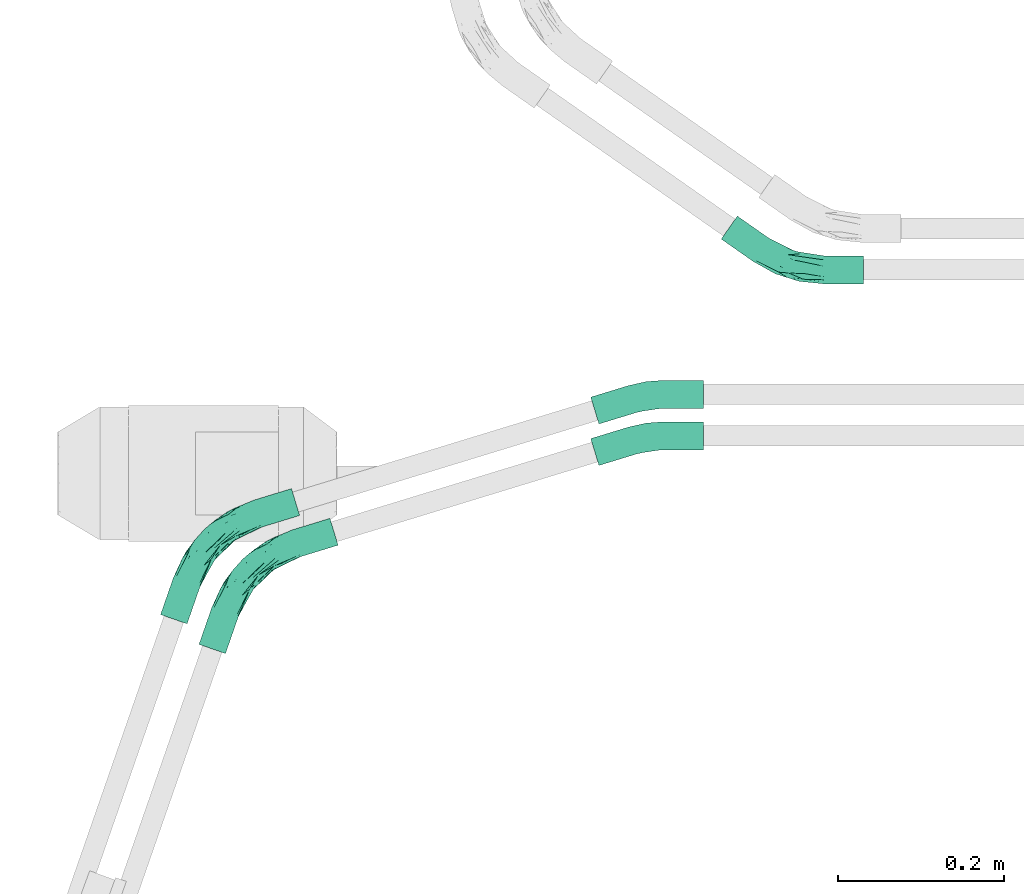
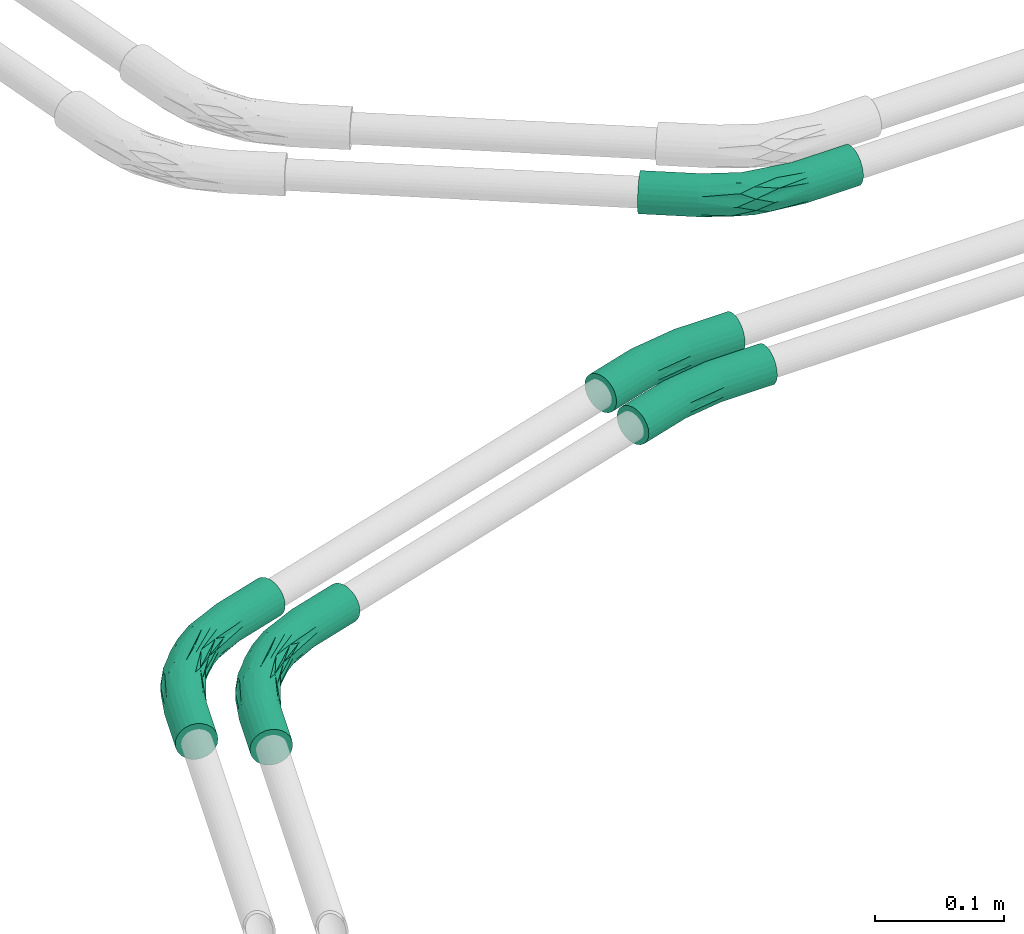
# One storey, part 3 of 22: 5 flow fittings.
"""IFC2X3 building model written with IfcOpenShell, lengths in millimetres."""

from ifc_helpers import new_model, entity, si_unit, converted_unit, derived_unit, direction, frame, origin_with_axes, place, context, subcontext, project, spatial, open_shell, surface_model, source, transform, mapped, type_object, element, save


model = new_model("IFC2X3")

# Units and contexts
model_context = context("Model", 3, precision=0.01, world=frame((0.0, 4.29681676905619e-09, 0.0)), true_north=direction((4.01073788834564e-13, 1.0)))
plan_context = context("Plan", 3, precision=0.01, world=frame((0.0, 4.29681676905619e-09, 0.0)), true_north=direction((4.01073788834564e-13, 1.0)))
body_context = subcontext(model_context, "Body", "Model", "MODEL_VIEW")
ifc_project = project(units=[converted_unit("PLANEANGLEUNIT", "DEGREE", entity("IfcPositiveLengthMeasure", 0.0174532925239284), si_unit("PLANEANGLEUNIT", "RADIAN"), dimensions=[0, 0, 0, 0, 0, 0, 0]), si_unit("AREAUNIT", "SQUARE_METRE"), si_unit("LENGTHUNIT", "METRE", prefix="MILLI"), si_unit("MASSUNIT", "GRAM", prefix="KILO"), si_unit("POWERUNIT", "WATT"), si_unit("PRESSUREUNIT", "PASCAL", prefix="KILO"), si_unit("FORCEUNIT", "NEWTON", prefix="KILO"), si_unit("ELECTRICVOLTAGEUNIT", "VOLT"), si_unit("ELECTRICCURRENTUNIT", "AMPERE"), si_unit("THERMODYNAMICTEMPERATUREUNIT", "DEGREE_CELSIUS"), si_unit("TIMEUNIT", "SECOND"), si_unit("VOLUMEUNIT", "CUBIC_METRE"), derived_unit("LINEARVELOCITYUNIT", [(si_unit("LENGTHUNIT", "METRE"), 1), (si_unit("TIMEUNIT", "SECOND"), -1)]), derived_unit("VOLUMETRICFLOWRATEUNIT", [(si_unit("VOLUMEUNIT", "CUBIC_METRE"), 1), (si_unit("TIMEUNIT", "SECOND"), -1)]), derived_unit("THERMALTRANSMITTANCEUNIT", [(si_unit("POWERUNIT", "WATT"), 1), (si_unit("THERMODYNAMICTEMPERATUREUNIT", "KELVIN"), -1), (si_unit("AREAUNIT", "SQUARE_METRE"), -1)]), derived_unit("SOUNDPRESSUREUNIT", [(si_unit("PRESSUREUNIT", "PASCAL"), 1)])], contexts=[model_context, plan_context])

# Site, building, storey
site_placement = place(None, frame((0.0, -4.29681676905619e-09, 0.0), z_axis=(0.0, 0.0, 1.0), x_axis=(1.0, 0.0, 0.0)))
site = spatial("IfcSite", under=ifc_project, at=site_placement, Name="ENGM", CompositionType="ELEMENT")
building_placement = place(site_placement, frame((0.0, 4.29681676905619e-09, 0.0), z_axis=(0.0, 0.0, 1.0), x_axis=(1.0, 0.0, 0.0)))
building = spatial("IfcBuilding", under=site, at=building_placement, Name="TI", CompositionType="ELEMENT")
storey_placement = place(building_placement, frame((0.0, 0.0, 210900.0), z_axis=(0.0, 0.0, 1.0), x_axis=(1.0, 0.0, 0.0)))
storey = spatial("IfcBuildingStorey", under=building, at=storey_placement, Name="Nivå F", CompositionType="ELEMENT", Elevation=210900.0)

# Flow fittings
cable_carrier_fitting_type = type_object("IfcCableCarrierFittingType", Name="Trekkerør, glatt bend", PredefinedType="BEND")
shared_shape_1 = source(origin_with_axes(), body_context, "Body", "SurfaceModel", [
    surface_model("IfcShellBasedSurfaceModel", [(-67.01386, 8.46055, -14.6541), (-67.01386, 4.3795, -16.34452), (-67.01386, 0.0, -16.92109), (-67.01386, -4.3795, -16.34452), (-67.01386, -8.46055, -14.6541), (-67.01386, -14.6541, -8.46055), (-67.01386, 16.92109, 0.0), (-67.01386, -11.96502, -11.96502), (-67.01386, -11.96502, 11.96502), (-67.01386, 14.6541, -8.46055), (-67.01386, 11.96502, -11.96502), (-67.01386, 16.34452, -4.3795), (-67.01386, -16.34452, -4.3795), (-67.01386, -16.92109, 0.0), (-67.01386, -16.34452, 4.3795), (-67.01386, -14.6541, 8.46055), (-67.01386, 0.0, 16.92109), (-67.01386, -8.46055, 14.6541), (-67.01386, -4.3795, 16.34452), (-67.01386, 14.6541, 8.46055), (-67.01386, 8.46055, 14.6541), (-67.01386, 11.96502, 11.96502), (-67.01386, 16.34452, 4.3795), (-67.01386, 4.3795, 16.34452), (-19.69589, 16.34452, 4.3795), (-19.69589, 16.92109, 0.0), (-19.69589, 14.6541, 8.46055), (-19.69589, 8.46055, 14.6541), (-19.69589, 11.96502, 11.96502), (-19.69589, 4.3795, 16.34452), (-19.69589, 0.0, 16.92109), (-19.69589, -8.46055, 14.6541), (-19.69589, -4.3795, 16.34452), (-19.69589, -11.96502, 11.96502), (-19.69589, -16.34452, 4.3795), (-19.69589, -14.6541, 8.46055), (-19.69589, -16.92109, 0.0), (-19.69589, -16.34452, -4.3795), (-19.69589, -14.6541, -8.46055), (-19.69589, -8.46055, -14.6541), (-19.69589, -11.96502, -11.96502), (-19.69589, -4.3795, -16.34452), (-19.69589, 0.0, -16.92109), (-19.69589, 8.46055, -14.6541), (-19.69589, 4.3795, -16.34452), (-19.69589, 11.96502, -11.96502), (-19.69589, 16.34452, -4.3795), (-19.69589, 14.6541, -8.46055), (22.33351, 5.68368, 11.96502), (21.3089, 2.33234, 14.6541), (20.11572, -1.57038, 16.34452), (18.83527, -5.75852, 16.92109), (17.55483, -9.94666, 16.34452), (23.11972, 8.25526, 8.46055), (14.55083, -19.7723, 8.46055), (15.33704, -17.20073, 11.96502), (14.0566, -21.38887, 4.3795), (-2.71744, -18.18281, 0.0), (16.36165, -13.84938, 14.6541), (2.28475, 15.28765, 0.0), (23.61395, 9.87182, 4.3795), (23.78252, 10.4232, 0.0), (13.88803, -21.94024, 0.0), (20.11572, -1.57038, -16.34452), (18.83527, -5.75852, -16.92109), (14.0566, -21.38887, -4.3795), (16.36165, -13.84938, -14.6541), (17.55483, -9.94666, -16.34452), (15.33704, -17.20073, -11.96502), (23.61395, 9.87182, -4.3795), (22.33351, 5.68368, -11.96502), (23.11972, 8.25526, -8.46055), (21.3089, 2.33234, -14.6541), (14.55083, -19.7723, -8.46055), (64.08567, -19.59296, -16.92109), (67.58391, -8.15075, -11.96502), (62.80523, -23.7811, -16.34452), (61.61205, -27.68382, -14.6541), (59.80123, -33.60674, -8.46055), (60.58744, -31.03516, -11.96502), (69.03292, -3.41123, 0.0), (68.86435, -3.96261, 4.3795), (66.5593, -11.50209, -14.6541), (65.36611, -15.40482, -16.34452), (68.37011, -5.57917, -8.46055), (68.86435, -3.96261, -4.3795), (59.30699, -35.2233, -4.3795), (59.13842, -35.77468, 0.0), (67.58391, -8.15075, 11.96502), (59.30699, -35.2233, 4.3795), (59.80123, -33.60674, 8.46055), (60.58744, -31.03516, 11.96502), (61.61205, -27.68382, 14.6541), (64.08567, -19.59296, 16.92109), (62.80523, -23.7811, 16.34452), (68.37011, -5.57917, 8.46055), (65.36611, -15.40482, 16.34452), (66.5593, -11.50209, 14.6541)], [open_shell([[[0, 1, 2]], [[2, 3, 4]], [[2, 4, 5]], [[2, 5, 6]], [[5, 4, 7]], [[8, 6, 5]], [[0, 9, 10]], [[0, 11, 9]], [[0, 2, 11]], [[6, 11, 2]], [[5, 12, 8]], [[13, 14, 15]], [[13, 15, 8]], [[16, 6, 17]], [[6, 8, 17]], [[16, 17, 18]], [[19, 20, 21]], [[19, 22, 6]], [[20, 16, 23]], [[20, 19, 6]], [[20, 6, 16]], [[12, 13, 8]], [[24, 25, 22]], [[24, 19, 26]], [[27, 28, 20]], [[21, 28, 26]], [[29, 27, 23]], [[6, 22, 25]], [[22, 19, 24]], [[19, 21, 26]], [[21, 20, 28]], [[27, 20, 23]], [[23, 16, 29]], [[16, 30, 29]], [[31, 32, 17]], [[31, 8, 33]], [[34, 35, 14]], [[15, 35, 33]], [[36, 34, 13]], [[30, 18, 32]], [[18, 17, 32]], [[16, 18, 30]], [[17, 8, 31]], [[8, 15, 33]], [[35, 15, 14]], [[14, 13, 34]], [[37, 36, 12]], [[37, 5, 38]], [[39, 40, 4]], [[7, 40, 38]], [[41, 39, 3]], [[13, 12, 36]], [[12, 5, 37]], [[5, 7, 38]], [[7, 4, 40]], [[39, 4, 3]], [[3, 2, 41]], [[2, 42, 41]], [[43, 44, 0]], [[43, 10, 45]], [[46, 47, 11]], [[9, 47, 45]], [[25, 46, 6]], [[42, 1, 44]], [[1, 0, 44]], [[2, 1, 42]], [[0, 10, 43]], [[10, 9, 45]], [[47, 9, 11]], [[11, 6, 46]], [[48, 26, 28]], [[28, 27, 49]], [[27, 29, 50]], [[29, 30, 51]], [[52, 30, 32]], [[26, 53, 24]], [[54, 33, 35]], [[33, 55, 31]], [[56, 34, 57]], [[34, 36, 57]], [[35, 34, 56]], [[32, 31, 58]], [[59, 25, 24]], [[27, 50, 49]], [[49, 48, 28]], [[29, 51, 50]], [[60, 24, 53]], [[48, 53, 26]], [[60, 61, 59]], [[35, 56, 54]], [[56, 57, 62]], [[52, 32, 58]], [[55, 58, 31]], [[55, 33, 54]], [[51, 30, 52]], [[60, 59, 24]], [[63, 42, 44]], [[64, 41, 42]], [[37, 38, 65]], [[39, 66, 40]], [[67, 39, 41]], [[40, 68, 38]], [[46, 25, 59]], [[46, 59, 69]], [[43, 45, 70]], [[69, 47, 46]], [[47, 71, 45]], [[44, 43, 72]], [[57, 36, 37]], [[65, 62, 57]], [[38, 73, 65]], [[68, 40, 66]], [[67, 66, 39]], [[38, 68, 73]], [[41, 64, 67]], [[63, 44, 72]], [[72, 43, 70]], [[69, 71, 47]], [[59, 61, 69]], [[70, 45, 71]], [[42, 63, 64]], [[65, 57, 37]], [[74, 75, 76]], [[77, 76, 78]], [[78, 76, 75]], [[79, 77, 78]], [[78, 80, 81]], [[82, 75, 83]], [[75, 74, 83]], [[84, 85, 75]], [[80, 75, 85]], [[75, 80, 78]], [[81, 86, 78]], [[87, 88, 89]], [[90, 89, 91]], [[88, 92, 89]], [[91, 89, 92]], [[92, 93, 94]], [[95, 88, 81]], [[88, 87, 81]], [[96, 93, 97]], [[88, 97, 93]], [[88, 93, 92]], [[86, 81, 87]], [[81, 80, 60]], [[81, 53, 95]], [[97, 88, 49]], [[48, 88, 95]], [[96, 97, 50]], [[61, 60, 80]], [[60, 53, 81]], [[53, 48, 95]], [[48, 49, 88]], [[97, 49, 50]], [[50, 51, 96]], [[51, 93, 96]], [[92, 94, 58]], [[92, 55, 91]], [[89, 90, 56]], [[54, 90, 91]], [[87, 89, 62]], [[93, 52, 94]], [[52, 58, 94]], [[51, 52, 93]], [[58, 55, 92]], [[55, 54, 91]], [[90, 54, 56]], [[56, 62, 89]], [[86, 87, 62]], [[86, 65, 78]], [[67, 76, 77]], [[68, 77, 79]], [[79, 78, 73]], [[65, 73, 78]], [[86, 62, 65]], [[66, 77, 68]], [[67, 77, 66]], [[67, 64, 76]], [[79, 73, 68]], [[64, 74, 76]], [[82, 83, 72]], [[82, 70, 75]], [[85, 84, 69]], [[71, 84, 75]], [[80, 85, 61]], [[74, 63, 83]], [[63, 72, 83]], [[64, 63, 74]], [[72, 70, 82]], [[70, 71, 75]], [[84, 71, 69]], [[69, 61, 85]]])]),
])
for number, where, z_axis, x_axis, name in (
    (1, (583306.02904, 571094.62419, -56.7999999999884), (0.0, 0.0, 1.0), (0.956304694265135, 0.292371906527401, 0.0), "Trekkerør, glatt bend"),
    (2, (583306.02904, 571044.62419, -56.7999999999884), (0.0, 0.0, 1.0), (0.956304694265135, 0.292371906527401, 0.0), "Trekkerør, glatt bend"),
):
    element("IfcFlowFitting", number, at=place(storey_placement, frame(where, z_axis=z_axis, x_axis=x_axis)), inside=storey, type_object=cable_carrier_fitting_type, Name=name, context=body_context, shape_type="MappedRepresentation", body=[
        mapped(shared_shape_1, transform((0.0, 0.0, 0.0), scale=1.0)),
    ])
shared_shape_2 = source(origin_with_axes(), body_context, "Body", "SurfaceModel", [
    surface_model("IfcShellBasedSurfaceModel", [(-114.18104, 8.46055, -14.6541), (-114.18104, 4.3795, -16.34452), (-114.18104, 0.0, -16.92109), (-114.18104, 14.6541, -8.46055), (-114.18104, -8.46055, -14.6541), (-114.18104, 11.96502, -11.96502), (-114.18104, -16.92109, 0.0), (-114.18104, -16.34452, 4.3795), (-114.18104, -11.96502, -11.96502), (-114.18104, -14.6541, -8.46055), (-114.18104, -4.3795, -16.34452), (-114.18104, -16.34452, -4.3795), (-114.18104, 16.92109, 0.0), (-114.18104, 16.34452, -4.3795), (-114.18104, 16.34452, 4.3795), (-114.18104, 14.6541, 8.46055), (-114.18104, 8.46055, 14.6541), (-114.18104, 11.96502, 11.96502), (-114.18104, 0.0, 16.92109), (-114.18104, 4.3795, 16.34452), (-114.18104, -11.96502, 11.96502), (-114.18104, -8.46055, 14.6541), (-114.18104, -14.6541, 8.46055), (-114.18104, -4.3795, 16.34452), (-66.86307, -16.92109, 0.0), (-66.86307, -16.34452, 4.3795), (-66.86307, -14.6541, 8.46055), (-66.86307, -11.96502, 11.96502), (-66.86307, -8.46055, 14.6541), (-66.86307, -4.3795, 16.34452), (-66.86307, 0.0, 16.92109), (-66.86307, 4.3795, 16.34452), (-66.86307, 8.46055, 14.6541), (-66.86307, 11.96502, 11.96502), (-66.86307, 14.6541, 8.46055), (-66.86307, 16.34452, 4.3795), (-66.86307, 16.92109, 0.0), (-66.86307, 16.34452, -4.3795), (-66.86307, 14.6541, -8.46055), (-66.86307, 11.96502, -11.96502), (-66.86307, 8.46055, -14.6541), (-66.86307, 4.3795, -16.34452), (-66.86307, 0.0, -16.92109), (-66.86307, -4.3795, -16.34452), (-66.86307, -8.46055, -14.6541), (-66.86307, -11.96502, -11.96502), (-66.86307, -14.6541, -8.46055), (-66.86307, -16.34452, -4.3795), (-7.95797, -4.42749, 3.1862), (-35.42196, -13.15403, 3.63992), (-32.27242, -12.84216, 0.0), (43.0219, 51.37087, 16.34452), (39.48772, 53.9573, 16.92109), (21.78288, 31.11607, 16.75716), (-28.2681, -1.16114, 15.55965), (-36.24238, -7.08238, 13.33358), (-32.48914, -9.40106, 10.16826), (-43.40125, -13.61824, 6.79025), (-33.3333, 18.16273, 10.43706), (-37.97456, 0.798, 16.75716), (-4.61214, 9.09061, 15.89686), (32.66021, 58.95389, 14.6541), (29.83216, 61.02355, 11.96502), (13.72034, 40.73345, 13.50422), (-9.40332, 18.53411, 16.22846), (-29.16631, 7.61689, 16.79998), (11.07823, 28.03505, 16.79998), (-36.81854, 9.98559, 15.69055), (0.42066, -0.82913, 0.0), (29.42271, 18.45899, 0.0), (15.53221, 8.29758, 2.92209), (-40.97407, 12.98412, 13.50422), (51.31331, 45.30294, 8.46055), (49.14327, 46.89105, 11.96502), (28.60105, 22.24115, 10.17752), (-16.70811, 26.90629, 6.71647), (-43.67359, 17.90107, 6.63933), (13.68595, 35.60915, 15.69055), (35.95354, 56.54373, 16.34452), (-29.39279, 22.78636, 3.63614), (27.26363, 25.19258, 13.33415), (-4.16877, 35.06109, 3.66136), (26.29798, 63.60998, 4.3795), (9.20666, 43.94014, 6.59732), (27.66212, 62.61165, 8.46055), (17.63148, 22.12611, 15.55965), (46.31523, 48.9607, 14.6541), (36.27692, 25.07799, 3.1792), (22.76936, 14.64862, 6.28703), (52.67745, 44.30462, 4.3795), (2.86445, 3.39946, 9.02542), (53.14274, 43.96411, 0.0), (-2.4602, 4.84909, 13.22646), (3.5245, 36.48876, 10.44458), (-11.7917, 23.24165, 13.59813), (25.8327, 63.95049, 0.0), (0.44002, 38.70356, 0.0), (-31.49295, 22.5023, 0.0), (-6.09794, 12.01915, 16.73333), (-17.17436, -7.10447, 6.24887), (-4.44654, 24.36305, 15.14505), (-31.04354, 11.52814, -15.70174), (9.20666, 43.94014, -6.59732), (3.5245, 36.48876, -10.44458), (-16.70811, 26.90629, -6.71647), (15.35976, 8.89418, -5.28368), (-1.07229, 2.11351, -10.03898), (29.00466, 22.59625, -10.17958), (-40.97407, 12.98412, -13.50422), (-29.39279, 22.78636, -3.63614), (27.66212, 62.61165, -8.46055), (29.83216, 61.02355, -11.96502), (-4.16877, 35.06109, -3.66136), (-27.48572, -4.89323, -13.30679), (-33.3333, 18.16273, -10.43706), (-43.67359, 17.90107, -6.63933), (-11.7917, 23.24165, -13.59813), (-39.02557, 5.09311, -16.79389), (-26.5563, -10.09311, -6.29304), (-35.36422, -10.06144, -10.17958), (-41.67473, -14.46692, -3.17756), (51.31331, 45.30294, -8.46055), (36.78908, 26.89793, -6.37043), (-36.95798, -3.34037, -15.57665), (9.03056, 31.85982, -15.70174), (-8.09915, 15.96357, -16.81304), (-29.17558, 3.00766, -16.75093), (32.66021, 58.95389, -14.6541), (35.95354, 56.54373, -16.34452), (18.93752, 34.5008, -16.79389), (26.29798, 63.60998, -4.3795), (39.48772, 53.9573, -16.92109), (43.0219, 51.37087, -16.34452), (14.80326, 25.32043, -16.75093), (20.18115, 19.29066, -13.30679), (46.31523, 48.9607, -14.6541), (49.14327, 46.89105, -11.96502), (13.72034, 40.73345, -13.50422), (24.52211, 27.85168, -15.57665), (-6.60087, 13.01042, -16.86289), (-4.17447, 8.22795, -15.50993), (-2.8082, 5.53501, -13.80517), (52.67745, 44.30462, -4.3795), (-15.87372, -7.6289, -2.95781), (36.50825, 25.29169, -3.14006), (67.43257, 92.14205, -16.92109), (63.89839, 94.72848, -16.34452), (60.60506, 97.13865, -14.6541), (57.77701, 99.20831, -11.96502), (55.60698, 100.79641, -8.46055), (81.08759, 82.14886, 0.0), (53.77755, 102.13524, 0.0), (74.26008, 87.14545, -14.6541), (79.25816, 83.48769, -8.46055), (77.08813, 85.0758, -11.96502), (70.96675, 89.55563, -16.34452), (80.6223, 82.48937, -4.3795), (54.24283, 101.79473, -4.3795), (54.24283, 101.79473, 4.3795), (55.60698, 100.79641, 8.46055), (57.77701, 99.20831, 11.96502), (60.60506, 97.13865, 14.6541), (79.25816, 83.48769, 8.46055), (63.89839, 94.72848, 16.34452), (74.26008, 87.14545, 14.6541), (77.08813, 85.0758, 11.96502), (80.6223, 82.48937, 4.3795), (70.96675, 89.55563, 16.34452), (67.43257, 92.14205, 16.92109)], [open_shell([[[0, 1, 2]], [[3, 0, 2]], [[4, 3, 2]], [[5, 0, 3]], [[3, 6, 7]], [[8, 9, 4]], [[2, 10, 4]], [[9, 11, 4]], [[11, 3, 4]], [[3, 11, 6]], [[12, 13, 3]], [[12, 7, 14]], [[14, 7, 15]], [[16, 17, 18]], [[15, 18, 17]], [[18, 19, 16]], [[20, 21, 22]], [[15, 7, 22]], [[23, 18, 21]], [[15, 22, 21]], [[15, 21, 18]], [[3, 7, 12]], [[7, 24, 25]], [[26, 22, 25]], [[21, 27, 28]], [[26, 27, 20]], [[23, 28, 29]], [[24, 7, 6]], [[25, 22, 7]], [[26, 20, 22]], [[27, 21, 20]], [[23, 21, 28]], [[29, 18, 23]], [[29, 30, 18]], [[16, 31, 32]], [[33, 17, 32]], [[14, 34, 35]], [[33, 34, 15]], [[12, 35, 36]], [[31, 19, 30]], [[31, 16, 19]], [[30, 19, 18]], [[32, 17, 16]], [[33, 15, 17]], [[14, 15, 34]], [[35, 12, 14]], [[13, 36, 37]], [[38, 3, 37]], [[0, 39, 40]], [[38, 39, 5]], [[1, 40, 41]], [[36, 13, 12]], [[37, 3, 13]], [[38, 5, 3]], [[39, 0, 5]], [[1, 0, 40]], [[41, 2, 1]], [[41, 42, 2]], [[4, 43, 44]], [[45, 8, 44]], [[11, 46, 47]], [[45, 46, 9]], [[6, 47, 24]], [[43, 10, 42]], [[43, 4, 10]], [[42, 10, 2]], [[44, 8, 4]], [[45, 9, 8]], [[11, 9, 46]], [[47, 6, 11]], [[48, 49, 50]], [[49, 24, 50]], [[51, 52, 53]], [[29, 28, 54]], [[55, 27, 56]], [[25, 49, 57]], [[34, 33, 58]], [[59, 54, 60]], [[59, 30, 29]], [[61, 62, 63]], [[64, 65, 66]], [[67, 31, 65]], [[68, 69, 70]], [[33, 32, 71]], [[72, 73, 74]], [[58, 75, 76]], [[65, 31, 30]], [[26, 56, 27]], [[77, 78, 61]], [[75, 79, 76]], [[80, 74, 73]], [[36, 35, 79]], [[81, 79, 75]], [[32, 31, 67]], [[59, 65, 30]], [[48, 68, 70]], [[50, 68, 48]], [[82, 83, 84]], [[85, 51, 53]], [[63, 77, 61]], [[71, 58, 33]], [[85, 86, 51]], [[87, 88, 70]], [[66, 52, 78]], [[80, 73, 86]], [[72, 88, 89]], [[90, 88, 74]], [[74, 88, 72]], [[27, 55, 28]], [[91, 89, 87]], [[90, 92, 56]], [[93, 58, 94]], [[55, 54, 28]], [[81, 75, 83]], [[26, 57, 56]], [[95, 96, 82]], [[66, 77, 64]], [[81, 97, 79]], [[83, 93, 84]], [[62, 84, 93]], [[60, 98, 59]], [[63, 93, 94]], [[80, 85, 92]], [[78, 77, 66]], [[66, 98, 53]], [[60, 92, 85]], [[58, 93, 75]], [[99, 88, 90]], [[67, 64, 100]], [[98, 66, 65]], [[71, 67, 94]], [[56, 92, 55]], [[54, 55, 92]], [[85, 80, 86]], [[92, 74, 80]], [[54, 59, 29]], [[65, 59, 98]], [[66, 53, 52]], [[53, 98, 60]], [[81, 82, 96]], [[93, 83, 75]], [[67, 71, 32]], [[58, 71, 94]], [[93, 63, 62]], [[63, 94, 100]], [[92, 90, 74]], [[56, 99, 90]], [[82, 81, 83]], [[97, 81, 96]], [[36, 79, 97]], [[76, 35, 34]], [[35, 76, 79]], [[58, 76, 34]], [[100, 64, 77]], [[67, 65, 64]], [[87, 70, 69]], [[48, 88, 99]], [[91, 87, 69]], [[88, 87, 89]], [[88, 48, 70]], [[48, 99, 49]], [[57, 49, 99]], [[24, 49, 25]], [[56, 57, 99]], [[25, 57, 26]], [[92, 60, 54]], [[53, 60, 85]], [[63, 100, 77]], [[67, 100, 94]], [[101, 41, 40]], [[102, 103, 104]], [[105, 106, 107]], [[39, 108, 40]], [[97, 109, 36]], [[103, 110, 111]], [[97, 112, 109]], [[45, 44, 113]], [[114, 39, 38]], [[115, 114, 38]], [[114, 103, 116]], [[42, 41, 117]], [[118, 46, 119]], [[103, 114, 104]], [[24, 47, 120]], [[107, 121, 122]], [[118, 47, 46]], [[108, 114, 116]], [[123, 44, 43]], [[101, 124, 125]], [[113, 119, 45]], [[44, 123, 113]], [[43, 42, 126]], [[124, 101, 116]], [[117, 101, 125]], [[127, 128, 124]], [[97, 96, 112]], [[129, 124, 128]], [[96, 95, 130]], [[131, 132, 133]], [[110, 102, 130]], [[134, 135, 136]], [[108, 101, 40]], [[103, 111, 137]], [[124, 116, 137]], [[112, 130, 102]], [[128, 131, 129]], [[138, 133, 132]], [[139, 140, 126]], [[127, 137, 111]], [[139, 125, 129]], [[133, 139, 129]], [[140, 138, 134]], [[134, 141, 140]], [[142, 122, 121]], [[143, 68, 50]], [[134, 136, 107]], [[132, 135, 138]], [[69, 68, 105]], [[107, 136, 121]], [[69, 144, 91]], [[106, 105, 118]], [[105, 68, 143]], [[120, 118, 143]], [[141, 106, 113]], [[117, 126, 42]], [[45, 119, 46]], [[115, 37, 109]], [[123, 126, 140]], [[105, 122, 144]], [[106, 134, 107]], [[113, 106, 119]], [[118, 119, 106]], [[126, 123, 43]], [[113, 123, 140]], [[134, 138, 135]], [[133, 138, 140]], [[101, 117, 41]], [[117, 125, 139]], [[133, 129, 131]], [[124, 129, 125]], [[103, 102, 110]], [[112, 102, 104]], [[114, 108, 39]], [[101, 108, 116]], [[124, 137, 127]], [[103, 137, 116]], [[112, 104, 109]], [[130, 112, 96]], [[115, 109, 104]], [[36, 109, 37]], [[114, 115, 104]], [[37, 115, 38]], [[144, 122, 142]], [[107, 122, 105]], [[91, 144, 142]], [[105, 144, 69]], [[120, 143, 50]], [[105, 143, 118]], [[24, 120, 50]], [[118, 120, 47]], [[106, 141, 134]], [[113, 140, 141]], [[140, 139, 133]], [[117, 139, 126]], [[145, 146, 147]], [[145, 147, 148]], [[145, 149, 150]], [[149, 145, 148]], [[151, 150, 149]], [[152, 153, 154]], [[152, 155, 145]], [[153, 150, 156]], [[153, 152, 145]], [[150, 153, 145]], [[149, 157, 151]], [[151, 158, 159]], [[151, 159, 160]], [[161, 162, 150]], [[161, 151, 160]], [[162, 161, 163]], [[162, 164, 165]], [[166, 150, 162]], [[162, 167, 164]], [[167, 162, 168]], [[163, 168, 162]], [[150, 151, 161]], [[89, 150, 166]], [[162, 72, 166]], [[86, 165, 164]], [[162, 165, 73]], [[51, 164, 167]], [[150, 89, 91]], [[166, 72, 89]], [[162, 73, 72]], [[165, 86, 73]], [[51, 86, 164]], [[167, 52, 51]], [[167, 168, 52]], [[61, 163, 161]], [[160, 62, 161]], [[82, 159, 158]], [[160, 159, 84]], [[95, 158, 151]], [[163, 78, 168]], [[163, 61, 78]], [[168, 78, 52]], [[161, 62, 61]], [[160, 84, 62]], [[82, 84, 159]], [[158, 95, 82]], [[95, 151, 157]], [[149, 130, 157]], [[147, 146, 128]], [[148, 147, 111]], [[110, 149, 148]], [[149, 110, 130]], [[130, 95, 157]], [[111, 147, 127]], [[127, 147, 128]], [[146, 131, 128]], [[111, 110, 148]], [[146, 145, 131]], [[135, 155, 152]], [[154, 136, 152]], [[142, 153, 156]], [[154, 153, 121]], [[91, 156, 150]], [[155, 132, 145]], [[155, 135, 132]], [[145, 132, 131]], [[152, 136, 135]], [[154, 121, 136]], [[142, 121, 153]], [[156, 91, 142]]])]),
])
for number, where, z_axis, x_axis, name in (
    (3, (582772.01682, 570931.36027, -56.7999999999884), (0.0, 0.0, 1.0), (-0.956304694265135, -0.292371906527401, 0.0), "Trekkerør, glatt bend"),
    (4, (582818.33855, 570895.52224, -56.7999999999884), (0.0, 0.0, 1.0), (-0.956304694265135, -0.292371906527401, 0.0), "Trekkerør, glatt bend"),
):
    element("IfcFlowFitting", number, at=place(storey_placement, frame(where, z_axis=z_axis, x_axis=x_axis)), inside=storey, type_object=cable_carrier_fitting_type, Name=name, context=body_context, shape_type="MappedRepresentation", body=[
        mapped(shared_shape_2, transform((0.0, 0.0, 0.0), scale=1.0)),
    ])
shared_shape_3 = source(origin_with_axes(), body_context, "Body", "SurfaceModel", [
    surface_model("IfcShellBasedSurfaceModel", [(-88.87066, 8.46055, -14.6541), (-88.87066, 4.3795, -16.34452), (-88.87066, 0.0, -16.92109), (-88.87066, 14.6541, -8.46055), (-88.87066, -8.46055, -14.6541), (-88.87066, 11.96502, -11.96502), (-88.87066, -16.92109, 0.0), (-88.87066, -16.34452, 4.3795), (-88.87066, -11.96502, -11.96502), (-88.87066, -14.6541, -8.46055), (-88.87066, -4.3795, -16.34452), (-88.87066, -16.34452, -4.3795), (-88.87066, 16.92109, 0.0), (-88.87066, 16.34452, -4.3795), (-88.87066, 16.34452, 4.3795), (-88.87066, 14.6541, 8.46055), (-88.87066, 8.46055, 14.6541), (-88.87066, 11.96502, 11.96502), (-88.87066, 0.0, 16.92109), (-88.87066, 4.3795, 16.34452), (-88.87066, -11.96502, 11.96502), (-88.87066, -8.46055, 14.6541), (-88.87066, -14.6541, 8.46055), (-88.87066, -4.3795, 16.34452), (-41.55269, -16.92109, 0.0), (-41.55269, -16.34452, 4.3795), (-41.55269, -14.6541, 8.46055), (-41.55269, -11.96502, 11.96502), (-41.55269, -8.46055, 14.6541), (-41.55269, -4.3795, 16.34452), (-41.55269, 0.0, 16.92109), (-41.55269, 4.3795, 16.34452), (-41.55269, 8.46055, 14.6541), (-41.55269, 11.96502, 11.96502), (-41.55269, 14.6541, 8.46055), (-41.55269, 16.34452, 4.3795), (-41.55269, 16.92109, 0.0), (-41.55269, 16.34452, -4.3795), (-41.55269, 14.6541, -8.46055), (-41.55269, 11.96502, -11.96502), (-41.55269, 8.46055, -14.6541), (-41.55269, 4.3795, -16.34452), (-41.55269, 0.0, -16.92109), (-41.55269, -4.3795, -16.34452), (-41.55269, -8.46055, -14.6541), (-41.55269, -11.96502, -11.96502), (-41.55269, -14.6541, -8.46055), (-41.55269, -16.34452, -4.3795), (2.90029, -9.19856, 5.38748), (-11.48104, -13.84885, 0.0), (-9.27928, -9.85588, 10.22003), (1.20669, -3.82712, 13.34122), (19.86976, 0.15259, 10.23803), (34.03797, 23.83364, 16.92109), (11.21471, 11.56856, 16.91377), (36.54995, 20.24616, 16.34452), (-9.97623, -2.91658, 15.59436), (-1.22017, 3.86989, 16.75881), (24.33243, 37.69459, 0.0), (2.41695, 25.3289, 3.24961), (24.66313, 37.22229, 4.3795), (40.90082, 14.03247, 11.96502), (38.89074, 16.90317, 14.6541), (-11.06472, 5.74517, 16.78899), (-3.83563, 12.16507, 15.68042), (-12.01933, 13.8649, 13.48391), (29.1852, 30.76412, 14.6541), (7.86439, 19.14087, 14.46607), (31.52599, 27.42112, 16.34452), (-5.93803, 18.83303, 10.39535), (-1.29023, 22.79398, 6.56595), (42.44321, 11.82971, 8.46055), (-21.1026, 18.54685, 2.632), (27.17511, 33.63481, 11.96502), (25.63272, 35.83757, 8.46055), (17.34809, -4.75906, 0.0), (17.57572, 6.73024, 15.60468), (9.01394, 14.11226, 16.50988), (43.74351, 9.97269, 0.0), (43.4128, 10.44499, 4.3795), (-7.01146, 22.2375, 0.0), (-15.82201, 3.04391, -16.91377), (-1.22017, 3.86989, -16.75881), (-18.25749, -4.56793, -15.60468), (2.90029, -9.19856, -5.38748), (-16.36388, -11.27183, -10.23803), (13.25424, -2.75109, -10.22003), (-3.83563, 12.16507, -15.68042), (5.7684, 11.05263, -16.78899), (-15.47825, 6.38991, -16.50988), (-12.0172, 19.41179, -6.56595), (-5.93803, 18.83303, -10.39535), (9.84493, 3.33301, -15.59436), (1.89307, 18.25147, -13.48391), (-17.42088, 11.16845, -14.46607), (1.20669, -3.82712, -13.34122), (-16.50791, 19.36192, -3.24961), (43.4128, 10.44499, -4.3795), (40.90082, 14.03247, -11.96502), (42.44321, 11.82971, -8.46055), (24.66313, 37.22229, -4.3795), (6.6482, 27.29665, -2.632), (36.54995, 20.24616, -16.34452), (38.89074, 16.90317, -14.6541), (25.63272, 35.83757, -8.46055), (27.17511, 33.63481, -11.96502), (29.1852, 30.76412, -14.6541), (31.52599, 27.42112, -16.34452), (34.03797, 23.83364, -16.92109), (75.31056, 47.38664, -16.34452), (72.79858, 50.97411, -16.92109), (70.2866, 54.56159, -16.34452), (67.94581, 57.90459, -14.6541), (65.93572, 60.77528, -11.96502), (64.39334, 62.97805, -8.46055), (63.42374, 64.36276, -4.3795), (63.42374, 64.36276, 4.3795), (82.50412, 37.11316, 0.0), (77.65135, 44.04364, -14.6541), (81.20382, 38.97018, -8.46055), (79.66143, 41.17294, -11.96502), (82.17341, 37.58546, -4.3795), (63.09304, 64.83506, 0.0), (64.39334, 62.97805, 8.46055), (79.66143, 41.17294, 11.96502), (67.94581, 57.90459, 14.6541), (65.93572, 60.77528, 11.96502), (70.2866, 54.56159, 16.34452), (72.79858, 50.97411, 16.92109), (81.20382, 38.97018, 8.46055), (82.17341, 37.58546, 4.3795), (75.31056, 47.38664, 16.34452), (77.65135, 44.04364, 14.6541)], [open_shell([[[0, 1, 2]], [[3, 0, 2]], [[4, 3, 2]], [[5, 0, 3]], [[3, 6, 7]], [[8, 9, 4]], [[2, 10, 4]], [[9, 11, 4]], [[11, 3, 4]], [[3, 11, 6]], [[12, 13, 3]], [[12, 7, 14]], [[14, 7, 15]], [[16, 17, 18]], [[15, 18, 17]], [[18, 19, 16]], [[20, 21, 22]], [[15, 7, 22]], [[23, 18, 21]], [[15, 22, 21]], [[15, 21, 18]], [[3, 7, 12]], [[7, 24, 25]], [[26, 22, 25]], [[21, 27, 28]], [[26, 27, 20]], [[23, 28, 29]], [[24, 7, 6]], [[25, 22, 7]], [[26, 20, 22]], [[27, 21, 20]], [[23, 21, 28]], [[29, 18, 23]], [[29, 30, 18]], [[16, 31, 32]], [[33, 17, 32]], [[14, 34, 35]], [[33, 34, 15]], [[12, 35, 36]], [[31, 19, 30]], [[31, 16, 19]], [[30, 19, 18]], [[32, 17, 16]], [[33, 15, 17]], [[14, 15, 34]], [[35, 12, 14]], [[13, 36, 37]], [[38, 3, 37]], [[0, 39, 40]], [[38, 39, 5]], [[1, 40, 41]], [[36, 13, 12]], [[37, 3, 13]], [[38, 5, 3]], [[39, 0, 5]], [[1, 0, 40]], [[41, 2, 1]], [[41, 42, 2]], [[4, 43, 44]], [[45, 8, 44]], [[11, 46, 47]], [[45, 46, 9]], [[6, 47, 24]], [[43, 10, 42]], [[43, 4, 10]], [[42, 10, 2]], [[44, 8, 4]], [[45, 9, 8]], [[11, 9, 46]], [[47, 6, 11]], [[25, 48, 26]], [[49, 25, 24]], [[27, 26, 50]], [[51, 50, 52]], [[27, 51, 28]], [[27, 50, 51]], [[53, 54, 55]], [[56, 57, 29]], [[57, 30, 29]], [[29, 28, 56]], [[58, 59, 60]], [[61, 62, 51]], [[31, 63, 64]], [[64, 32, 31]], [[33, 32, 65]], [[66, 67, 68]], [[26, 48, 50]], [[33, 65, 69]], [[28, 51, 56]], [[69, 34, 33]], [[34, 69, 70]], [[52, 48, 71]], [[72, 36, 35]], [[73, 74, 69]], [[49, 75, 48]], [[31, 30, 63]], [[76, 62, 55]], [[56, 76, 57]], [[48, 52, 50]], [[77, 63, 54]], [[68, 54, 53]], [[25, 49, 48]], [[51, 76, 56]], [[61, 52, 71]], [[55, 54, 57]], [[75, 78, 79]], [[54, 68, 77]], [[57, 76, 55]], [[54, 63, 57]], [[70, 59, 72]], [[79, 71, 48]], [[80, 59, 58]], [[30, 57, 63]], [[70, 69, 74]], [[67, 65, 64]], [[73, 65, 67]], [[34, 70, 35]], [[60, 70, 74]], [[32, 64, 65]], [[65, 73, 69]], [[64, 63, 77]], [[59, 70, 60]], [[51, 52, 61]], [[79, 48, 75]], [[68, 64, 77]], [[76, 51, 62]], [[72, 59, 80]], [[36, 72, 80]], [[70, 72, 35]], [[68, 67, 64]], [[73, 67, 66]], [[42, 81, 43]], [[82, 83, 43]], [[84, 85, 86]], [[87, 88, 89]], [[38, 90, 91]], [[82, 92, 83]], [[39, 93, 94]], [[39, 91, 93]], [[94, 41, 40]], [[94, 93, 87]], [[95, 85, 45]], [[91, 39, 38]], [[49, 24, 47]], [[36, 96, 37]], [[41, 87, 89]], [[49, 47, 84]], [[95, 45, 44]], [[43, 81, 82]], [[84, 97, 75]], [[46, 45, 85]], [[43, 83, 44]], [[41, 81, 42]], [[81, 41, 89]], [[98, 99, 86]], [[36, 80, 96]], [[95, 83, 92]], [[58, 100, 101]], [[102, 103, 92]], [[95, 86, 85]], [[91, 90, 104]], [[105, 93, 91]], [[88, 81, 89]], [[106, 107, 87]], [[81, 88, 82]], [[96, 90, 37]], [[105, 91, 104]], [[104, 90, 100]], [[87, 107, 88]], [[102, 92, 82]], [[83, 95, 44]], [[95, 98, 86]], [[103, 98, 95]], [[103, 95, 92]], [[108, 102, 82]], [[49, 84, 75]], [[99, 84, 86]], [[78, 75, 97]], [[37, 90, 38]], [[105, 106, 93]], [[97, 84, 99]], [[85, 84, 46]], [[47, 46, 84]], [[108, 82, 88]], [[96, 101, 90]], [[106, 87, 93]], [[107, 108, 88]], [[101, 96, 80]], [[58, 101, 80]], [[90, 101, 100]], [[41, 94, 87]], [[39, 94, 40]], [[109, 110, 111]], [[112, 109, 111]], [[113, 114, 115]], [[113, 115, 112]], [[116, 117, 112]], [[118, 119, 120]], [[117, 118, 109]], [[119, 117, 121]], [[117, 119, 118]], [[109, 112, 117]], [[112, 115, 122]], [[116, 123, 117]], [[124, 117, 123]], [[124, 123, 125]], [[125, 123, 126]], [[127, 128, 125]], [[124, 129, 117]], [[130, 117, 129]], [[124, 131, 132]], [[131, 124, 128]], [[128, 124, 125]], [[112, 122, 116]], [[79, 117, 130]], [[129, 71, 130]], [[62, 124, 132]], [[129, 124, 61]], [[55, 132, 131]], [[117, 79, 78]], [[130, 71, 79]], [[129, 61, 71]], [[124, 62, 61]], [[55, 62, 132]], [[131, 53, 55]], [[131, 128, 53]], [[66, 127, 125]], [[126, 73, 125]], [[60, 123, 116]], [[126, 123, 74]], [[58, 116, 122]], [[127, 68, 128]], [[127, 66, 68]], [[128, 68, 53]], [[125, 73, 66]], [[126, 74, 73]], [[60, 74, 123]], [[116, 58, 60]], [[58, 122, 115]], [[114, 100, 115]], [[112, 111, 107]], [[113, 112, 105]], [[104, 114, 113]], [[114, 104, 100]], [[100, 58, 115]], [[105, 112, 106]], [[106, 112, 107]], [[111, 108, 107]], [[105, 104, 113]], [[111, 110, 108]], [[103, 109, 118]], [[120, 98, 118]], [[97, 119, 121]], [[120, 119, 99]], [[78, 121, 117]], [[109, 102, 110]], [[109, 103, 102]], [[110, 102, 108]], [[118, 98, 103]], [[120, 99, 98]], [[97, 99, 119]], [[121, 78, 97]]])]),
])
flow_fitting_placement = place(storey_placement, frame((583476.80036, 571244.62419, -56.7999999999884), z_axis=(0.0, 0.0, 1.0), x_axis=(0.819152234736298, -0.573576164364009, 0.0)))
element("IfcFlowFitting", 5, at=flow_fitting_placement, inside=storey, type_object=cable_carrier_fitting_type, Name="Trekkerør, glatt bend", context=body_context, shape_type="MappedRepresentation", body=[
    mapped(shared_shape_3, transform((0.0, 0.0, 0.0), scale=1.0)),
])

save(model, "model.ifc")
